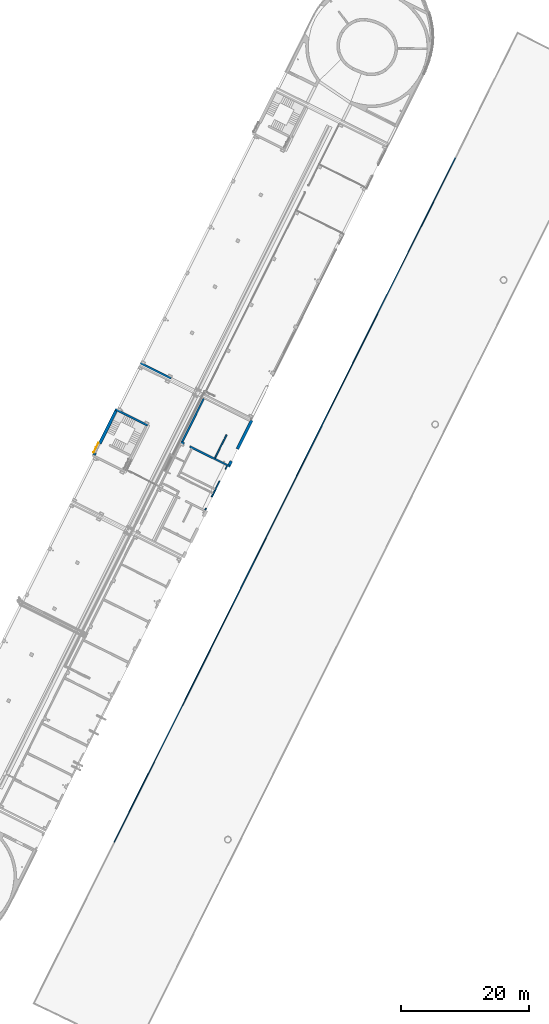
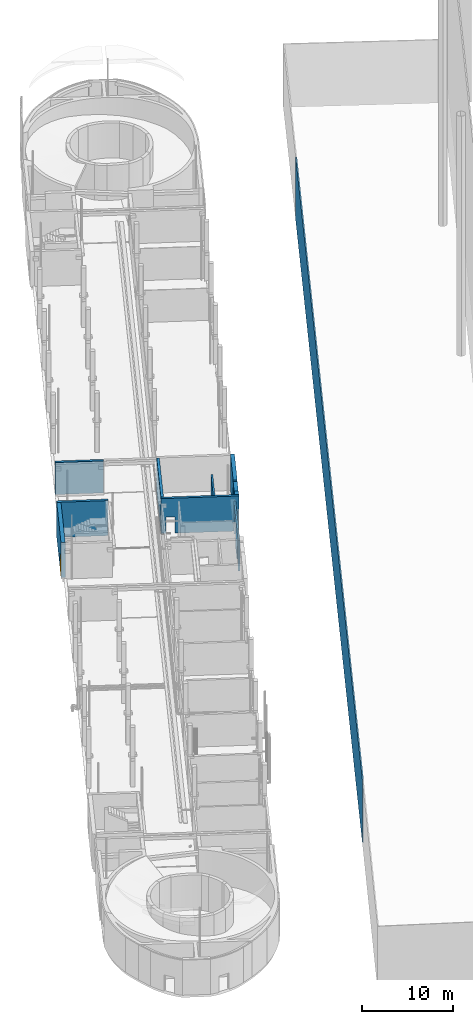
# One storey, part 13 of 91: 9 walls, 1 door, 6 openings.
"""IFC2X3 building model written with IfcOpenShell, lengths in metres."""

from ifc_helpers import new_model, entity, si_unit, converted_unit, derived_unit, direction, frame, frame_2d, origin, origin_2d_with_axis, place, context, subcontext, project, spatial, rectangle, extrude, faceted_brep, source, transform, mapped, material, layer, layer_set, layer_usage, type_object, type_shapes, element, fill, save


model = new_model("IFC2X3")

# Units and contexts
model_context = context("Model", 3, precision=1e-05, world=origin(), true_north=direction((0.894925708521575, 0.446215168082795)))
context_of_model = context(None, 3, precision=1e-05, world=origin(), true_north=direction((0.894925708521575, 0.446215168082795)))
body_context = subcontext(model_context, "Body", "Model", "MODEL_VIEW")
ifc_project = project(units=[si_unit("LENGTHUNIT", "METRE"), si_unit("AREAUNIT", "SQUARE_METRE"), si_unit("VOLUMEUNIT", "CUBIC_METRE"), converted_unit("PLANEANGLEUNIT", "DEGREE", entity("IfcRatioMeasure", 0.0174532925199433), si_unit("PLANEANGLEUNIT", "RADIAN"), dimensions=[0, 0, 0, 0, 0, 0, 0]), si_unit("MASSUNIT", "GRAM", prefix="KILO"), si_unit("TIMEUNIT", "SECOND"), si_unit("FREQUENCYUNIT", "HERTZ"), si_unit("THERMODYNAMICTEMPERATUREUNIT", "DEGREE_CELSIUS"), derived_unit("THERMALTRANSMITTANCEUNIT", [(si_unit("MASSUNIT", "GRAM", prefix="KILO"), 1), (si_unit("THERMODYNAMICTEMPERATUREUNIT", "KELVIN"), -1), (si_unit("TIMEUNIT", "SECOND"), -3)]), derived_unit("VOLUMETRICFLOWRATEUNIT", [(si_unit("LENGTHUNIT", "METRE"), 3), (si_unit("TIMEUNIT", "SECOND"), -1)]), si_unit("ELECTRICCURRENTUNIT", "AMPERE"), si_unit("ELECTRICVOLTAGEUNIT", "VOLT"), si_unit("POWERUNIT", "WATT"), si_unit("FORCEUNIT", "NEWTON", prefix="KILO"), si_unit("ILLUMINANCEUNIT", "LUX"), si_unit("LUMINOUSFLUXUNIT", "LUMEN"), si_unit("LUMINOUSINTENSITYUNIT", "CANDELA"), si_unit("PRESSUREUNIT", "PASCAL")], contexts=[model_context, context_of_model])

# Site, building, storey
site_placement = place(None, frame((218.228324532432, 584.720189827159, 0.0), z_axis=(0.0, 0.0, 1.0), x_axis=(0.446215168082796, 0.894925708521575, 0.0)))
site = spatial("IfcSite", under=ifc_project, at=site_placement, Name="Default", CompositionType="ELEMENT")
building_placement = place(site_placement, origin())
building = spatial("IfcBuilding", under=site, at=building_placement, CompositionType="ELEMENT")
storey_placement = place(building_placement, origin())
storey = spatial("IfcBuildingStorey", under=building, at=storey_placement, Name="0 - Piano Terra", CompositionType="ELEMENT", Elevation=0.0)

# Wall, opening, door
ifc_material_1 = material(Name="Alluminio")
ifc_layer_1 = layer(ifc_material_1, 0.15)
ifc_material_2 = material(Name="Default - Calcestruzzo")
ifc_layer_2 = layer(ifc_material_2, 0.3)
ifc_material_3 = material(Name="Intonaco - Bianco")
ifc_layer_3 = layer(ifc_material_3, 0.02)
ifc_layer_set_1 = layer_set([ifc_layer_1, ifc_layer_2, ifc_layer_3], Name="Muro di base:Setto CA rivestito int-est 47 cm")
ifc_layer_usage_1 = layer_usage(ifc_layer_set_1, "AXIS2", "NEGATIVE", 0.235)
wall_type_1 = type_object("IfcWallType", Name="Muro di base:Setto CA rivestito int-est 47 cm", PredefinedType="STANDARD", material=ifc_layer_set_1)
wall_1_placement = place(storey_placement, frame((-4.67578502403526, 6.22392100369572, 0.0)))
wall_1 = element("IfcWallStandardCase", 1, at=wall_1_placement, inside=storey, type_object=wall_type_1, material=ifc_layer_usage_1, Name="Muro di base:Setto CA rivestito int-est 47 cm", ObjectType="Muro di base:Setto CA rivestito int-est 47 cm", context=body_context, shape_type="SweptSolid", body=[
    extrude(rectangle(XDim=7.68000000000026, YDim=0.469999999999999, at=frame_2d((3.84000000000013, 0.0), x_axis=(-1.0, 0.0))), origin(), (0.0, 0.0, 1.0), 4.69),
])
opening_1_placement = place(wall_1_placement, frame((0.315000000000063, -0.534999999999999, 0.0)))
opening_1 = element("IfcOpeningElement", 2, at=opening_1_placement, cuts=wall_1, Name="Muro di base:Setto CA rivestito int-est 47 cm", ObjectType="Opening", context=body_context, shape_type="Brep", body=[
    faceted_brep([(1.6599999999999, 0.0, 2.11000000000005), (1.6599999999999, 0.720000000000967, 2.11000000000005), (0.0399999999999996, 0.720000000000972, 2.11000000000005), (0.0399999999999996, 0.0, 2.11000000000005), (1.6599999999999, 1.07000000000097, 0.0), (1.6599999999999, 0.770000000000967, 0.0), (1.6999999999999, 0.770000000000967, 0.0), (1.6999999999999, 0.720000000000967, 0.0), (1.6599999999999, 0.720000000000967, 0.0), (1.6599999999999, 0.0, 0.0), (0.0399999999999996, 0.0, 0.0), (0.0399999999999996, 0.720000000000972, 0.0), (0.0, 0.720000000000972, 0.0), (0.0, 0.770000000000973, 0.0), (0.0400000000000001, 0.770000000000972, 0.0), (0.0399999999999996, 1.07000000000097, 0.0), (1.6599999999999, 1.07000000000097, 2.11000000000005), (0.0399999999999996, 1.07000000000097, 2.11000000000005), (1.6599999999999, 0.770000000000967, 2.11000000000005), (0.0, 0.770000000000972, 2.15000000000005), (1.6999999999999, 0.770000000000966, 2.15000000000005), (0.0399999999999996, 0.770000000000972, 2.11000000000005), (1.6999999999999, 0.720000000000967, 2.15000000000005), (0.0, 0.720000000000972, 2.15000000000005)], [[[0, 1, 2, 3]], [[4, 5, 6, 7, 8, 9, 10, 11, 12, 13, 14, 15]], [[16, 4, 15, 17]], [[3, 2, 11, 10]], [[3, 10, 9, 0]], [[16, 18, 5, 4]], [[13, 19, 20, 6, 5, 18, 21, 14]], [[11, 2, 1, 8, 7, 22, 23, 12]], [[12, 23, 19, 13]], [[19, 23, 22, 20]], [[20, 22, 7, 6]], [[9, 8, 1, 0]], [[15, 14, 21, 17]], [[17, 21, 18, 16]]]),
])
door_style = type_object("IfcDoorStyle", Name="180x210", ConstructionType="NOTDEFINED", OperationType="DOUBLE_DOOR_SINGLE_SWING", ParameterTakesPrecedence=False, Sizeable=False, material=ifc_material_1)
shared_shape = source(origin(), body_context, "Body", "Brep", [
    faceted_brep([(0.0499999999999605, -0.289999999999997, 0.0), (0.0499999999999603, -0.329999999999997, 0.0), (0.0649999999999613, -0.329999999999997, 0.0), (0.0649999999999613, -0.349999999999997, 0.0), (0.0, -0.349999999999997, 0.0), (0.0, -0.289999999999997, 0.0), (0.0499999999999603, -0.289999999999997, 2.10000000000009), (0.0499999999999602, -0.329999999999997, 2.10000000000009), (1.64999999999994, -0.330000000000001, 2.10000000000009), (1.64999999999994, -0.330000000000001, 0.0), (1.63499999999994, -0.330000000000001, 0.0), (1.63499999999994, -0.330000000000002, 2.08500000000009), (0.0649999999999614, -0.329999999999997, 2.08500000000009), (0.0649999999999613, -0.349999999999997, 2.08500000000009), (1.63499999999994, -0.350000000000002, 2.08500000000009), (1.63499999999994, -0.350000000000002, 0.0), (1.6999999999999, -0.350000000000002, 0.0), (1.6999999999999, -0.350000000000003, 2.15000000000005), (0.0, -0.349999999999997, 2.15000000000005), (0.0, -0.289999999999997, 2.15000000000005), (1.6999999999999, -0.290000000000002, 2.15000000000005), (1.6999999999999, -0.290000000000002, 0.0), (1.64999999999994, -0.290000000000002, 0.0), (1.64999999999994, -0.290000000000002, 2.10000000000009)], [[[0, 1, 2, 3, 4, 5]], [[1, 0, 6, 7]], [[2, 1, 7, 8, 9, 10, 11, 12]], [[3, 2, 12, 13]], [[4, 3, 13, 14, 15, 16, 17, 18]], [[5, 4, 18, 19]], [[0, 5, 19, 20, 21, 22, 23, 6]], [[8, 23, 22, 9]], [[22, 21, 16, 15, 10, 9]], [[14, 11, 10, 15]], [[20, 17, 16, 21]], [[7, 6, 23, 8]], [[13, 12, 11, 14]], [[19, 18, 17, 20]]]),
    faceted_brep([(0.84999999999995, -0.289999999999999, 2.1), (0.84999999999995, -0.289999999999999, 0.0), (0.0499999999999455, -0.289999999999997, 0.0), (0.0499999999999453, -0.289999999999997, 2.1), (0.849999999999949, -0.329999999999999, 2.1), (0.0499999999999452, -0.329999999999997, 2.1), (0.0499999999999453, -0.329999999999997, 0.0), (0.84999999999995, -0.329999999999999, 0.0)], [[[0, 1, 2, 3]], [[4, 5, 6, 7]], [[1, 0, 4, 7]], [[2, 1, 7, 6]], [[3, 2, 6, 5]], [[0, 3, 5, 4]]]),
    faceted_brep([(1.64999999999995, -0.29, 0.0), (0.84999999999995, -0.289999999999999, 0.0), (0.84999999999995, -0.289999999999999, 2.1), (1.64999999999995, -0.29, 2.1), (1.64999999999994, -0.330000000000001, 0.0), (1.64999999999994, -0.330000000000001, 2.1), (0.849999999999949, -0.329999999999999, 2.1), (0.84999999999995, -0.329999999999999, 0.0)], [[[0, 1, 2, 3]], [[4, 5, 6, 7]], [[1, 0, 4, 7]], [[2, 1, 7, 6]], [[3, 2, 6, 5]], [[0, 3, 5, 4]]]),
    faceted_brep([(0.864999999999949, -0.287000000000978, 2.1), (0.834999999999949, -0.287000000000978, 2.1), (0.834999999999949, -0.290000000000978, 2.1), (0.864999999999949, -0.290000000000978, 2.1), (0.864999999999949, -0.287000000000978, 0.0), (0.864999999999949, -0.290000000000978, 0.0), (0.834999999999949, -0.290000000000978, 0.0), (0.834999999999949, -0.287000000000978, 0.0)], [[[0, 1, 2, 3]], [[4, 5, 6, 7]], [[1, 0, 4, 7]], [[2, 1, 7, 6]], [[3, 2, 6, 5]], [[0, 3, 5, 4]]]),
    faceted_brep([(1.6599999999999, -0.280000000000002, 1.85000000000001), (1.64999999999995, -0.280000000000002, 1.85000000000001), (1.63499999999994, -0.290000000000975, 1.85000000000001), (1.6599999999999, -0.290000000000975, 1.85000000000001), (1.6599999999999, -0.280000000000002, 1.80000000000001), (1.64999999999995, -0.280000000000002, 1.80000000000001), (1.63499999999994, -0.290000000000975, 1.80000000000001), (1.6599999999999, -0.290000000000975, 1.80000000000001)], [[[0, 1, 2, 3]], [[1, 0, 4, 5]], [[2, 1, 5, 6]], [[3, 2, 6, 7]], [[0, 3, 7, 4]], [[4, 7, 6, 5]]]),
    faceted_brep([(0.0399999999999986, -0.280000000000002, 1.80000000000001), (0.0499999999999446, -0.280000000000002, 1.80000000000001), (0.064999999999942, -0.290000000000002, 1.80000000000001), (0.0399999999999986, -0.290000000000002, 1.80000000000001), (0.0399999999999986, -0.290000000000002, 1.85000000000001), (0.0399999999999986, -0.280000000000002, 1.85000000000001), (0.064999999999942, -0.290000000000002, 1.85000000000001), (0.0499999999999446, -0.280000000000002, 1.85000000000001)], [[[0, 1, 2, 3]], [[4, 5, 0, 3]], [[6, 4, 3, 2]], [[7, 6, 2, 1]], [[5, 7, 1, 0]], [[5, 4, 6, 7]]]),
    faceted_brep([(1.6599999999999, -0.280000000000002, 1.80000000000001), (1.64999999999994, -0.280000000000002, 1.80000000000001), (1.64999999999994, -0.290000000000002, 1.80000000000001), (1.6599999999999, -0.290000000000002, 1.80000000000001), (1.6599999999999, -0.280000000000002, 1.75000000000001), (1.64999999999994, -0.280000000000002, 1.75000000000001), (1.64999999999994, -0.290000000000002, 1.75000000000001), (1.6599999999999, -0.290000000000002, 1.75000000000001)], [[[0, 1, 2, 3]], [[1, 0, 4, 5]], [[2, 1, 5, 6]], [[3, 2, 6, 7]], [[0, 3, 7, 4]], [[4, 7, 6, 5]]]),
    faceted_brep([(0.0499999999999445, -0.280000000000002, 1.75000000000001), (0.0499999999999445, -0.290000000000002, 1.75000000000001), (0.0399999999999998, -0.290000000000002, 1.75000000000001), (0.0399999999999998, -0.280000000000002, 1.75000000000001), (0.0399999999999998, -0.280000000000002, 1.80000000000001), (0.0499999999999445, -0.280000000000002, 1.80000000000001), (0.0399999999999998, -0.290000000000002, 1.80000000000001), (0.0499999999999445, -0.290000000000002, 1.80000000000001)], [[[0, 1, 2, 3]], [[4, 5, 0, 3]], [[6, 4, 3, 2]], [[7, 6, 2, 1]], [[5, 7, 1, 0]], [[5, 4, 6, 7]]]),
    faceted_brep([(0.0399999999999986, -0.290000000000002, 0.349999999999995), (0.064999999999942, -0.290000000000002, 0.349999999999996), (0.0499999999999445, -0.280000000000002, 0.349999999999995), (0.0399999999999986, -0.280000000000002, 0.349999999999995), (0.0399999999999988, -0.290000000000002, 0.299999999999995), (0.0649999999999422, -0.290000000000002, 0.299999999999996), (0.0499999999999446, -0.280000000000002, 0.299999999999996), (0.0399999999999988, -0.280000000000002, 0.299999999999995)], [[[0, 1, 2, 3]], [[1, 0, 4, 5]], [[2, 1, 5, 6]], [[3, 2, 6, 7]], [[0, 3, 7, 4]], [[4, 7, 6, 5]]]),
    faceted_brep([(1.6599999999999, -0.280000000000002, 0.300000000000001), (1.6599999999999, -0.290000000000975, 0.300000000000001), (1.63499999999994, -0.290000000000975, 0.300000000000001), (1.64999999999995, -0.280000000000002, 0.300000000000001), (1.64999999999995, -0.280000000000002, 0.350000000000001), (1.6599999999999, -0.280000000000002, 0.350000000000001), (1.63499999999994, -0.290000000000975, 0.350000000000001), (1.6599999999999, -0.290000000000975, 0.350000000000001)], [[[0, 1, 2, 3]], [[4, 5, 0, 3]], [[6, 4, 3, 2]], [[7, 6, 2, 1]], [[5, 7, 1, 0]], [[5, 4, 6, 7]]]),
    faceted_brep([(1.64999999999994, -0.280000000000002, 0.300000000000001), (1.64999999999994, -0.290000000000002, 0.300000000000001), (1.6599999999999, -0.290000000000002, 0.300000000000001), (1.6599999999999, -0.280000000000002, 0.300000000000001), (1.64999999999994, -0.280000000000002, 0.250000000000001), (1.64999999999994, -0.290000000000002, 0.250000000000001), (1.6599999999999, -0.290000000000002, 0.250000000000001), (1.6599999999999, -0.280000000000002, 0.250000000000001)], [[[0, 1, 2, 3]], [[1, 0, 4, 5]], [[2, 1, 5, 6]], [[3, 2, 6, 7]], [[0, 3, 7, 4]], [[4, 7, 6, 5]]]),
    faceted_brep([(0.0499999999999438, -0.280000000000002, 0.249999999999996), (0.0499999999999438, -0.290000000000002, 0.249999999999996), (0.0399999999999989, -0.290000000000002, 0.249999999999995), (0.0399999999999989, -0.280000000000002, 0.249999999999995), (0.0399999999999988, -0.280000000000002, 0.299999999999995), (0.0499999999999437, -0.280000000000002, 0.299999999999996), (0.0399999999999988, -0.290000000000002, 0.299999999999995), (0.0499999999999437, -0.290000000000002, 0.299999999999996)], [[[0, 1, 2, 3]], [[4, 5, 0, 3]], [[6, 4, 3, 2]], [[7, 6, 2, 1]], [[5, 7, 1, 0]], [[5, 4, 6, 7]]]),
])
type_shapes(door_style, [shared_shape])
door_placement = place(storey_placement, frame((-4.3607850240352, 6.75892100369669, 0.0)))
door = element("IfcDoor", 3, at=door_placement, inside=storey, type_object=door_style, material=ifc_material_1, Name="120-180x210 Uscita di sicurezza doppia:180x210", ObjectType="180x210", OverallHeight=2.15000000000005, OverallWidth=1.6999999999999, context=body_context, shape_type="MappedRepresentation", body=[
    mapped(shared_shape, transform((0.0, 0.0, 0.0), scale=1.0)),
])
fill(opening_1, door)

# Wall
ifc_layer_4 = layer(ifc_material_2, 0.3)
ifc_layer_5 = layer(ifc_material_3, 0.01)
ifc_layer_set_2 = layer_set([ifc_layer_4, ifc_layer_5], Name="Muro di base:Setto CA rivestito int - 31 cm")
ifc_layer_usage_2 = layer_usage(ifc_layer_set_2, "AXIS2", "NEGATIVE", 0.155)
wall_type_2 = type_object("IfcWallType", Name="Muro di base:Setto CA rivestito int - 31 cm", PredefinedType="STANDARD", material=ifc_layer_set_2)
wall_2_placement = place(storey_placement, frame((3.159214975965, 6.45892100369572, 0.0), z_axis=(0.0, 0.0, 1.0), x_axis=(0.0, -1.0, 0.0)))
element("IfcWallStandardCase", 4, at=wall_2_placement, inside=storey, type_object=wall_type_2, material=ifc_layer_usage_2, Name="Muro di base:Setto CA rivestito int - 31 cm", ObjectType="Muro di base:Setto CA rivestito int - 31 cm", context=body_context, shape_type="SweptSolid", body=[
    extrude(rectangle(XDim=5.65999999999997, YDim=0.31, at=frame_2d((2.82999999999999, 0.0), x_axis=(-1.0, 0.0))), origin(), (0.0, 0.0, 1.0), 4.69),
])

# Wall, openings
ifc_layer_6 = layer(ifc_material_1, 0.15)
ifc_layer_7 = layer(ifc_material_2, 0.3)
ifc_layer_set_3 = layer_set([ifc_layer_6, ifc_layer_7], Name="Muro di base:Setto CA rivestito est 45")
ifc_layer_usage_3 = layer_usage(ifc_layer_set_3, "AXIS2", "NEGATIVE", 0.225)
wall_type_3 = type_object("IfcWallType", Name="Muro di base:Setto CA rivestito est 45", PredefinedType="NOTDEFINED")
wall_3_placement = place(storey_placement, frame((11.0942149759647, -13.3360789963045, 0.0), z_axis=(0.0, 0.0, 1.0), x_axis=(-1.0, 0.0, 0.0)))
wall_3 = element("IfcWallStandardCase", 5, at=wall_3_placement, inside=storey, type_object=wall_type_3, material=ifc_layer_usage_3, Name="Muro di base:Setto CA rivestito est 45", ObjectType="Muro di base:Setto CA rivestito est 45", context=body_context, shape_type="SweptSolid", body=[
    extrude(rectangle(XDim=7.77999999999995, YDim=0.450000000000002, at=frame_2d((3.88999999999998, 4.71844785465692e-16), x_axis=(-1.0, 0.0))), origin(), (0.0, 0.0, 1.0), 4.69),
])
opening_2_placement = place(wall_3_placement, frame((7.07999999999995, 1.29900000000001, 0.0)))
element("IfcOpeningElement", 6, at=opening_2_placement, cuts=wall_3, Name="Muro di base:Setto CA rivestito est 45", ObjectType="Opening", context=body_context, shape_type="SweptSolid", body=[
    extrude(rectangle(XDim=3.8, YDim=2.1, at=frame_2d((2.22044604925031e-16, 0.0), x_axis=(0.0, 1.0))), frame((-1.05, -3.04800000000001, 1.9), z_axis=(0.0, 1.0, 0.0), x_axis=(1.0, 0.0, 0.0)), (0.0, 0.0, 1.0), 3.048),
])
opening_3_placement = place(wall_3_placement, frame((7.07999999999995, 1.29900000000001, 4.48)))
element("IfcOpeningElement", 7, at=opening_3_placement, cuts=wall_3, Name="Muro di base:Setto CA rivestito est 45", ObjectType="Opening", context=body_context, shape_type="SweptSolid", body=[
    extrude(rectangle(XDim=3.8, YDim=2.1, at=frame_2d((2.22044604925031e-16, -2.22044604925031e-16), x_axis=(0.0, 1.0))), frame((-1.05, -3.04800000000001, 1.9), z_axis=(0.0, 1.0, 0.0), x_axis=(1.0, 0.0, 0.0)), (0.0, 0.0, 1.0), 3.048),
])

# Wall, opening
ifc_layer_8 = layer(ifc_material_2, 0.3)
ifc_layer_set_4 = layer_set([ifc_layer_8], Name="Muro di base:Setto CA - 30 cm")
ifc_layer_usage_4 = layer_usage(ifc_layer_set_4, "AXIS2", "NEGATIVE", 0.15)
wall_type_4 = type_object("IfcWallType", Name="Muro di base:Setto CA - 30 cm", PredefinedType="STANDARD", material=ifc_layer_set_4)
wall_4_placement = place(storey_placement, frame((3.16421497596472, -13.5610789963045, 0.0), z_axis=(0.0, 0.0, 1.0), x_axis=(0.0, 1.0, 0.0)))
wall_4 = element("IfcWallStandardCase", 8, at=wall_4_placement, inside=storey, type_object=wall_type_4, material=ifc_layer_usage_4, Name="Muro di base:Setto CA - 30 cm", ObjectType="Muro di base:Setto CA - 30 cm", context=body_context, shape_type="SweptSolid", body=[
    extrude(rectangle(XDim=8.55999999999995, YDim=0.3, at=frame_2d((4.27999999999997, 0.0), x_axis=(-1.0, 0.0))), origin(), (0.0, 0.0, 1.0), 4.69),
])
opening_4_placement = place(wall_4_placement, frame((7.02045960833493, 1.674, 0.0)))
element("IfcOpeningElement", 9, at=opening_4_placement, cuts=wall_4, Name="Muro di base:Setto CA - 30 cm", ObjectType="Opening", context=body_context, shape_type="SweptSolid", body=[
    extrude(rectangle(XDim=2.2, YDim=1.0, at=origin_2d_with_axis()), frame((0.499999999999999, -3.048, 1.1), z_axis=(0.0, 1.0, 0.0), x_axis=(0.0, 0.0, -1.0)), (0.0, 0.0, 1.0), 3.048),
])

# Wall
ifc_layer_usage_5 = layer_usage(ifc_layer_set_4, "AXIS2", "NEGATIVE", 0.15)
wall_5_placement = place(storey_placement, frame((3.31421497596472, -5.15107899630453, 0.0)))
element("IfcWallStandardCase", 10, at=wall_5_placement, inside=storey, type_object=wall_type_4, material=ifc_layer_usage_5, Name="Muro di base:Setto CA - 30 cm", ObjectType="Muro di base:Setto CA - 30 cm", context=body_context, shape_type="SweptSolid", body=[
    extrude(rectangle(XDim=7.47999999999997, YDim=0.299999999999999, at=frame_2d((3.73999999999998, 5.55111512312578e-17), x_axis=(-1.0, 0.0))), origin(), (0.0, 0.0, 1.0), 4.69),
])

# Wall, openings
ifc_material_4 = material(Name="Sabbia e Calcestruzzo")
ifc_layer_9 = layer(ifc_material_4, 0.2)
ifc_layer_set_5 = layer_set([ifc_layer_9], Name="Muro di base:Blocchetti - 20 cm")
ifc_layer_usage_6 = layer_usage(ifc_layer_set_5, "AXIS2", "NEGATIVE", 0.1)
wall_type_5 = type_object("IfcWallType", Name="Muro di base:Blocchetti - 20 cm", PredefinedType="STANDARD", material=ifc_layer_set_5)
wall_6_placement = place(storey_placement, frame((3.01421497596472, -13.1010789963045, 0.0), z_axis=(0.0, 0.0, 1.0), x_axis=(-1.0, 0.0, 0.0)))
wall_6 = element("IfcWallStandardCase", 11, at=wall_6_placement, inside=storey, type_object=wall_type_5, material=ifc_layer_usage_6, Name="Muro di base:Blocchetti - 20 cm", ObjectType="Muro di base:Blocchetti - 20 cm", context=body_context, shape_type="SweptSolid", body=[
    extrude(rectangle(XDim=7.59858665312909, YDim=0.199999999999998, at=frame_2d((3.79929332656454, 0.0), x_axis=(-1.0, 0.0))), origin(), (0.0, 0.0, 1.0), 4.03),
])
opening_5_placement = place(wall_6_placement, frame((7.34858665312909, 1.42400000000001, 0.0)))
element("IfcOpeningElement", 12, at=opening_5_placement, cuts=wall_6, Name="Muro di base:Blocchetti - 20 cm", ObjectType="Opening", context=body_context, shape_type="SweptSolid", body=[
    extrude(rectangle(XDim=2.2, YDim=2.0, at=frame_2d((2.22044604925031e-16, 0.0), x_axis=(0.0, 1.0))), frame((-1.0, -3.04800000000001, 1.1), z_axis=(0.0, 1.0, 0.0), x_axis=(1.0, 0.0, 0.0)), (0.0, 0.0, 1.0), 3.048),
])
opening_6_placement = place(wall_6_placement, frame((2.62, 1.62400000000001, 0.0)))
element("IfcOpeningElement", 13, at=opening_6_placement, cuts=wall_6, Name="Muro di base:Blocchetti - 20 cm", ObjectType="Opening", context=body_context, shape_type="SweptSolid", body=[
    extrude(rectangle(XDim=2.3, YDim=2.1, at=origin_2d_with_axis()), frame((-1.05, -3.04800000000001, 1.15), z_axis=(0.0, 1.0, 0.0), x_axis=(0.0, 0.0, -1.0)), (0.0, 0.0, 1.0), 3.048),
])

# Walls
ifc_layer_usage_7 = layer_usage(ifc_layer_set_5, "AXIS2", "NEGATIVE", 0.1)
wall_7_placement = place(storey_placement, frame((3.31421497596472, -10.8510789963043, 0.0)))
element("IfcWallStandardCase", 14, at=wall_7_placement, inside=storey, type_object=wall_type_5, material=ifc_layer_usage_7, Name="Muro di base:Blocchetti - 20 cm", ObjectType="Muro di base:Blocchetti - 20 cm", context=body_context, shape_type="SweptSolid", body=[
    extrude(rectangle(XDim=4.02, YDim=0.200000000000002, at=frame_2d((2.01, -4.02455846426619e-16), x_axis=(-1.0, 0.0))), origin(), (0.0, 0.0, 1.0), 4.69),
])
ifc_layer_10 = layer(ifc_material_1, 0.15)
ifc_layer_set_6 = layer_set([ifc_layer_10], Name="Muro di base:Rivestimento 15 cm")
ifc_layer_usage_8 = layer_usage(ifc_layer_set_6, "AXIS2", "NEGATIVE", 0.075)
wall_type_6 = type_object("IfcWallType", Name="Muro di base:Rivestimento 15 cm", PredefinedType="STANDARD", material=ifc_layer_set_6)
wall_8_placement = place(storey_placement, frame((-57.3142925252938, -23.5019431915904, 0.0), z_axis=(0.0, 0.0, 1.0), x_axis=(0.999999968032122, 0.000252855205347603, 0.0)))
element("IfcWallStandardCase", 15, at=wall_8_placement, inside=storey, type_object=wall_type_6, material=ifc_layer_usage_8, Name="Muro di base:Rivestimento 15 cm", ObjectType="Muro di base:Rivestimento 15 cm", context=body_context, shape_type="SweptSolid", body=[
    extrude(rectangle(XDim=119.232764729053, YDim=0.150000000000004, at=frame_2d((59.6163823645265, 0.0), x_axis=(-1.0, 0.0))), origin(), (0.0, 0.0, 1.0), 8.45),
])
ifc_material_5 = material(Name="Calcestruzzo")
wall_type_7 = type_object("IfcWallType", Name="Setti C.a.1:Setti C.a.", PredefinedType="NOTDEFINED", material=ifc_material_5)
wall_9_placement = place(storey_placement, frame((11.1942149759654, 0.798921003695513, 0.0), z_axis=(0.0, 0.0, 1.0), x_axis=(0.0, 1.0, 0.0)))
element("IfcWall", 16, at=wall_9_placement, inside=storey, type_object=wall_type_7, material=ifc_material_5, Name="Setti C.a.1:Setti C.a.", ObjectType="Setti C.a.1:Setti C.a.", context=body_context, shape_type="SweptSolid", body=[
    extrude(rectangle(XDim=5.32000000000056, YDim=0.299999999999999, at=frame_2d((0.0, 1.08246744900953e-15), x_axis=(1.0, 0.0))), frame((2.66000000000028, -0.150000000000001, 0.0)), (0.0, 0.0, 1.0), 4.29),
])

save(model, "model.ifc")
